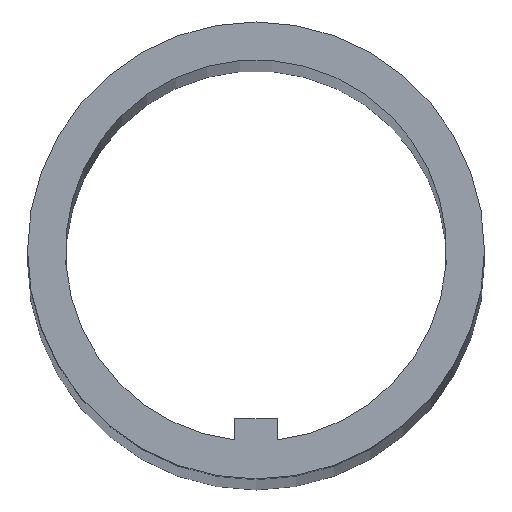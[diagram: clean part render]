
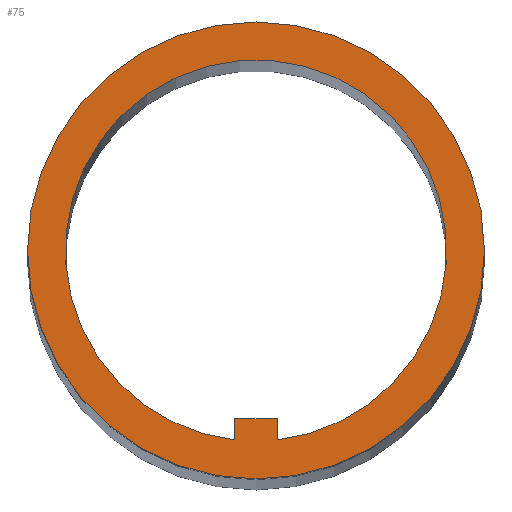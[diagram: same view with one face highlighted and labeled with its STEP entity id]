
A CAD part, top view. The second image highlights one B-rep face of the part: STEP entity #75.
In plain terms, the highlighted planar face has unit normal (0, 0, 1).
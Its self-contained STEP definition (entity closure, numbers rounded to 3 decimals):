
#75 = ADVANCED_FACE( '', ( #87, #88 ), #89, .F. );
#87 = FACE_OUTER_BOUND( '', #116, .T. );
#88 = FACE_BOUND( '', #117, .T. );
#89 = PLANE( '', #118 );
#116 = EDGE_LOOP( '', ( #145 ) );
#117 = EDGE_LOOP( '', ( #146, #147, #148, #149 ) );
#118 = AXIS2_PLACEMENT_3D( '', #150, #151, #152 );
#145 = ORIENTED_EDGE( '', *, *, #214, .F. );
#146 = ORIENTED_EDGE( '', *, *, #215, .F. );
#147 = ORIENTED_EDGE( '', *, *, #216, .F. );
#148 = ORIENTED_EDGE( '', *, *, #217, .F. );
#149 = ORIENTED_EDGE( '', *, *, #218, .F. );
#150 = CARTESIAN_POINT( '', ( 0., 0., 0. ) );
#151 = DIRECTION( '', ( 0., 0., -1. ) );
#152 = DIRECTION( '', ( -1., 0., 0. ) );
#214 = EDGE_CURVE( '', #232, #232, #233, .T. );
#215 = EDGE_CURVE( '', #234, #235, #236, .T. );
#216 = EDGE_CURVE( '', #237, #234, #238, .T. );
#217 = EDGE_CURVE( '', #239, #237, #240, .T. );
#218 = EDGE_CURVE( '', #235, #239, #241, .T. );
#232 = VERTEX_POINT( '', #264 );
#233 = CIRCLE( '', #265, 10.85 );
#234 = VERTEX_POINT( '', #266 );
#235 = VERTEX_POINT( '', #267 );
#236 = LINE( '', #268, #269 );
#237 = VERTEX_POINT( '', #270 );
#238 = CIRCLE( '', #271, 9.05 );
#239 = VERTEX_POINT( '', #272 );
#240 = LINE( '', #273, #274 );
#241 = LINE( '', #275, #276 );
#264 = CARTESIAN_POINT( '', ( -10.85, 0., 0. ) );
#265 = AXIS2_PLACEMENT_3D( '', #306, #307, #308 );
#266 = CARTESIAN_POINT( '', ( -1., -8.995, 0. ) );
#267 = CARTESIAN_POINT( '', ( -1., -8., 0. ) );
#268 = CARTESIAN_POINT( '', ( -1., -8.995, 0. ) );
#269 = VECTOR( '', #309, 1000. );
#270 = CARTESIAN_POINT( '', ( 1., -8.995, 0. ) );
#271 = AXIS2_PLACEMENT_3D( '', #310, #311, #312 );
#272 = CARTESIAN_POINT( '', ( 1., -8., 0. ) );
#273 = CARTESIAN_POINT( '', ( 1., -8., 0. ) );
#274 = VECTOR( '', #313, 1000. );
#275 = CARTESIAN_POINT( '', ( -1., -8., 0. ) );
#276 = VECTOR( '', #314, 1000. );
#306 = CARTESIAN_POINT( '', ( 0., 0., 0. ) );
#307 = DIRECTION( '', ( 0., 0., -1. ) );
#308 = DIRECTION( '', ( -1., 0., 0. ) );
#309 = DIRECTION( '', ( 0., 1., 0. ) );
#310 = CARTESIAN_POINT( '', ( 0., 0., 0. ) );
#311 = DIRECTION( '', ( 0., 0., 1. ) );
#312 = DIRECTION( '', ( 1., 0., 0. ) );
#313 = DIRECTION( '', ( 0., -1., 0. ) );
#314 = DIRECTION( '', ( 1., 0., 0. ) );
